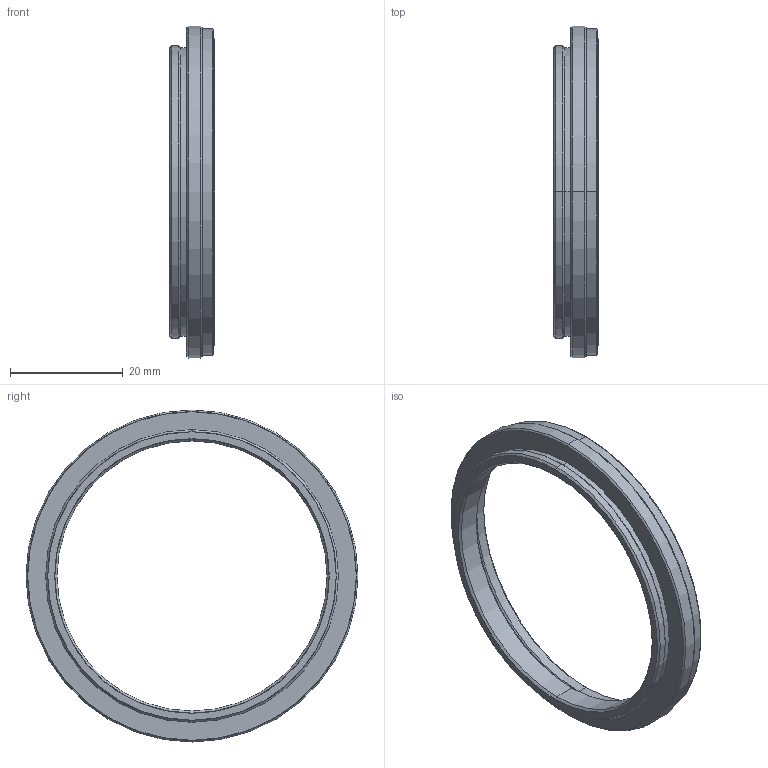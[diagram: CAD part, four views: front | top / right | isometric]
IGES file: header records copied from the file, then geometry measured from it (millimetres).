
Start section: SolidWorks IGES file using analytic representation for surfaces
Global section: file name: C:\Users\tsuji_vst\Documents\【図面】\_3D\00 VST\VS-L\VS-L12056-05_V組合図_F\VS-EXR5_M52.IGS; native system: SolidWorks 2017; preprocessor: SolidWorks 2017; author: tsuji_vst; date: 170208.171500; units: millimetre
Bounding box: 8 x 59 x 59 mm (x, y, z)
Surface area: 4426.8 mm2 (no closed solid volume)
Topology: 0 solids, 0 shells, 40 faces, 904 edges, 904 vertices
Faces by surface type: revolution 34, bspline 6
